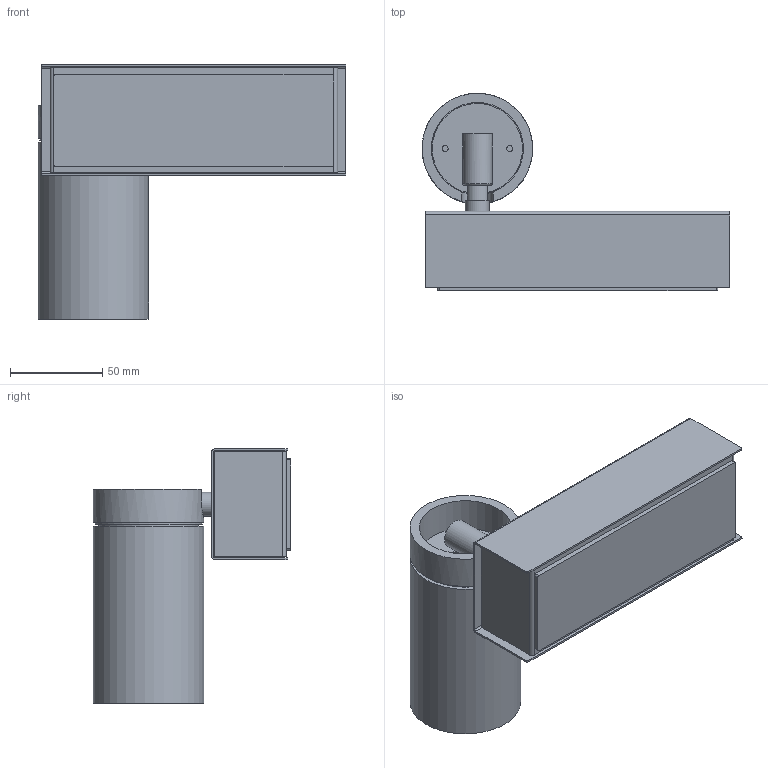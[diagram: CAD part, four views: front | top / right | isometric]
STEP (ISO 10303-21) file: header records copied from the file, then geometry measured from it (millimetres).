
FILE_DESCRIPTION(/* description */ (''),/* implementation_level */ '2;1');
FILE_NAME(/* name */ 'DOT P.stp',/* time_stamp */ '2024-02-14T11:24:53+01:00',/* author */ ('n.bisotti'),/* organization */ (''),/* preprocessor_version */ 'ST-DEVELOPER v19.2',/* originating_system */ 'Autodesk Inventor 2023',/* authorisation */ '');
FILE_SCHEMA (('AUTOMOTIVE_DESIGN { 1 0 10303 214 3 1 1 }'));
Length unit declared in the file: centimetre
Products named in the file (1): Parte1
Bounding box: 167 x 107.1 x 137.9 mm (x, y, z)
Volume: 397109.7 mm3; surface area: 177788.7 mm2
Topology: 15 solids, 15 shells, 263 faces, 618 edges, 405 vertices
Faces by surface type: plane 154, cylinder 94, cone 11, torus 2, sphere 2
Full cylindrical faces by diameter (mm): 2.459 x1, 3 x1, 3.25 x2, 4.3 x1, 5.38 x2, 5.4 x4, 8.917 x2, 13 x1, 16 x1, 48 x1, 49 x1, 50 x2, 51.9 x1, 52 x1, 53 x1, 54 x1, 54.5 x2, 55.835 x1, 57.5 x1, 58 x3, 60 x2
Entity records: 8050 total; most frequent: CARTESIAN_POINT 1434, DIRECTION 1328, ORIENTED_EDGE 1230, EDGE_CURVE 615, AXIS2_PLACEMENT_3D 473, VERTEX_POINT 404, LINE 382, VECTOR 382
